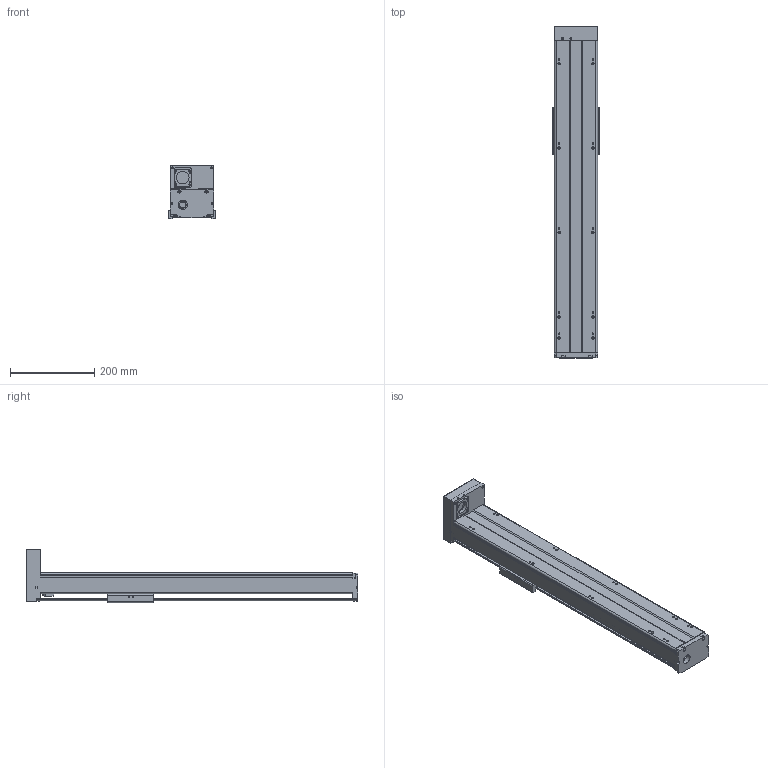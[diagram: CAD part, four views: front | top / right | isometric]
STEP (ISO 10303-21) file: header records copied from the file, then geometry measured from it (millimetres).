
FILE_DESCRIPTION(/* description */ (''),/* implementation_level */ '2;1');
FILE_NAME(/* name */ 'TKA100-FD-550_asm1.stp',/* time_stamp */ '2016-05-16T15:22:13+08:00',/* author */ (''),/* organization */ (''),/* preprocessor_version */ 'ST-DEVELOPER v15',/* originating_system */ 'SIEMENS PLM Software NX 8.5',/* authorisation */ '');
FILE_SCHEMA (('AUTOMOTIVE_DESIGN { 1 0 10303 214 3 1 1 1 }'));
Length unit declared in the file: millimetre
Products named in the file (3): 200-02; 200-01; TKA100-FD-550_asm1
Assembly tree (2 placements, depth 2):
  TKA100-FD-550_asm1
    200-01
    200-02
Bounding box: 110 x 786 x 127 mm (x, y, z)
Volume: 1757966.3 mm3; surface area: 612657.1 mm2
Topology: 2 solids, 11 shells, 786 faces, 2034 edges, 1320 vertices
Faces by surface type: cylinder 304, plane 296, cone 122, torus 38, bspline 26
Full cylindrical faces by diameter (mm): 2.5 x6, 2.6 x8, 3.3 x10, 3.4 x9, 3.8 x8, 4.2 x19, 4.3 x4, 4.5 x8, 5 x1, 5.5 x20, 6.6 x4, 8 x5, 9 x4, 10 x12, 11 x4, 12 x7, 15.3 x1, 16 x1, 22 x1, 24 x1, 28 x4, 30 x1, 33 x1
Entity records: 28212 total; most frequent: CARTESIAN_POINT 10011, DIRECTION 3798, ORIENTED_EDGE 3454, EDGE_CURVE 1727, AXIS2_PLACEMENT_3D 1518, VERTEX_POINT 1236, EDGE_LOOP 1122, ADVANCED_FACE 786
